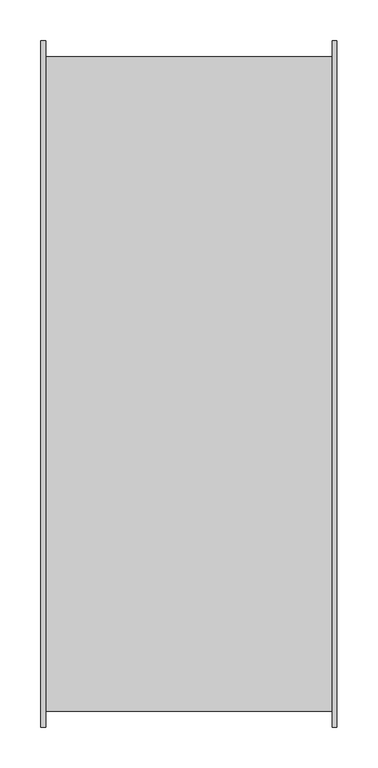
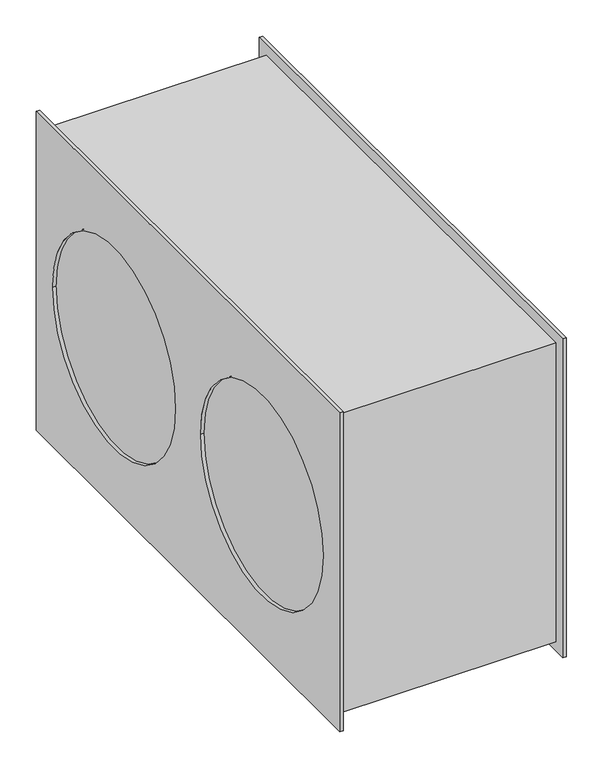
"""IFC4 building model written with IfcOpenShell, lengths in millimetres: unitary equipment geometry, VE-Wentylator-ParaForma-Harmann-JETTEC_REC_EC-Nawiewny : 080/50/6100EC."""

import ifcopenshell
import ifcopenshell.guid

model = None  # the IFC model being written
_history = None  # IfcOwnerHistory: only IFC2X3 demands one
_inside = {}  # id of a spatial element -> (the spatial element, [elements in it])
_under = {}  # id of a project, library or spatial element -> (it, [spatial elements below it])
_declared = {}  # id of a project -> (the project, [libraries it declares])
_typed = {}  # id of a type object -> (the type object, [elements of that type])
_made_of = {}  # id of a material, layer set ... -> (it, [elements and type objects made of it])


def new_model(schema):
    """Start an empty IFC model of exactly this schema.

    Asked for "IFC4X3", IfcOpenShell would pick the latest addendum, in which some entities
    have other attributes; the version numbers below select the first issue.
    IFC2X3 requires an IfcOwnerHistory on every rooted entity: one is made here for all.
    """
    global model, _history
    if schema == "IFC4X3":
        model = ifcopenshell.file(schema_version=(4, 3, 0, 0))
    else:
        model = ifcopenshell.file(schema=schema)
    _inside.clear()
    _under.clear()
    _declared.clear()
    _typed.clear()
    _made_of.clear()
    _history = None
    if model.schema == "IFC2X3":
        org = make("IfcOrganization", Name="unknown")
        user = make(
            "IfcPersonAndOrganization",
            ThePerson=make("IfcPerson", FamilyName="unknown"),
            TheOrganization=org,
        )
        app = make(
            "IfcApplication",
            ApplicationDeveloper=org,
            Version="unknown",
            ApplicationFullName="unknown",
            ApplicationIdentifier="unknown",
        )
        _history = make(
            "IfcOwnerHistory",
            OwningUser=user,
            OwningApplication=app,
            ChangeAction="ADDED",
            CreationDate=0,
        )
    return model


def make(cls, **values):
    """One entity of the class cls with the attributes given. An attribute that is None is left unset."""
    return model.create_entity(
        cls, **{name: value for name, value in values.items() if value is not None}
    )


def rooted(cls, **values):
    """An entity with a GlobalId (a new one), such as an element, a storey or a relation."""
    return make(cls, GlobalId=ifcopenshell.guid.new(), OwnerHistory=_history, **values)


def si_unit(unit_type, name, prefix=None):
    """IfcSIUnit, for example si_unit("LENGTHUNIT", "METRE", prefix="MILLI")."""
    return make("IfcSIUnit", UnitType=unit_type, Prefix=prefix, Name=name)


def assignment(units):
    """IfcUnitAssignment: the units of a project."""
    return None if units is None else make("IfcUnitAssignment", Units=units)


def point(xyz):
    """IfcCartesianPoint."""
    return None if xyz is None else make("IfcCartesianPoint", Coordinates=xyz)


def direction(xyz):
    """IfcDirection."""
    return None if xyz is None else make("IfcDirection", DirectionRatios=xyz)


def frame(location, z_axis=None, x_axis=None):
    """IfcAxis2Placement3D, a coordinate frame: its origin and axes. An axis left out is left unset."""
    return make(
        "IfcAxis2Placement3D",
        Location=point(location),
        Axis=direction(z_axis),
        RefDirection=direction(x_axis),
    )


def origin():
    """The frame at (0, 0, 0) with its axes left unset."""
    return frame((0.0, 0.0, 0.0))


def place(relative_to, where):
    """IfcLocalPlacement: puts the frame where relative to a parent placement (None: the world)."""
    return make(
        "IfcLocalPlacement", PlacementRelTo=relative_to, RelativePlacement=where
    )


def context(
    kind, dimensions, precision=None, world=None, true_north=None, identifier=None
):
    """IfcGeometricRepresentationContext, for example the 3D "Model" context."""
    return make(
        "IfcGeometricRepresentationContext",
        ContextIdentifier=identifier,
        ContextType=kind,
        CoordinateSpaceDimension=dimensions,
        Precision=precision,
        WorldCoordinateSystem=world,
        TrueNorth=true_north,
    )


def project(units=None, contexts=None):
    """IfcProject with its units and contexts."""
    return rooted(
        "IfcProject",
        Name="project",
        RepresentationContexts=contexts,
        UnitsInContext=assignment(units),
    )


def spatial(cls, under=None, at=None, **own):
    """A site, building, storey or space (cls), placed at a placement, below another one or the project."""
    s = rooted(cls, ObjectPlacement=at, **own)
    if under is not None:
        _under.setdefault(under.id(), (under, []))[1].append(s)
    return s


def polyline(points):
    """IfcPolyline through the points."""
    return make("IfcPolyline", Points=[point(p) for p in points])


def circle_curve(where, radius):
    """IfcCircle in the frame where."""
    return make("IfcCircle", Position=where, Radius=radius)


def shape(context_of_items, identifier, shape_type, items):
    """IfcShapeRepresentation: the items that make up one representation, for example the "Body"."""
    return make(
        "IfcShapeRepresentation",
        ContextOfItems=context_of_items,
        RepresentationIdentifier=identifier,
        RepresentationType=shape_type,
        Items=items,
    )


def source(mapping_origin, context_of_items, identifier, shape_type, items):
    """IfcRepresentationMap: a shape defined once, which mapped items show again and again."""
    return make(
        "IfcRepresentationMap",
        MappingOrigin=mapping_origin,
        MappedRepresentation=shape(context_of_items, identifier, shape_type, items),
    )


def transform(
    local_origin,
    x_axis=None,
    y_axis=None,
    z_axis=None,
    scale=None,
    scale2=None,
    scale3=None,
    uniform=True,
):
    """IfcCartesianTransformationOperator3D, or its non-uniform kind. x_axis, y_axis, z_axis: its Axis1, 2, 3."""
    if uniform:
        return make(
            "IfcCartesianTransformationOperator3D",
            Axis1=direction(x_axis),
            Axis2=direction(y_axis),
            LocalOrigin=point(local_origin),
            Scale=scale,
            Axis3=direction(z_axis),
        )
    return make(
        "IfcCartesianTransformationOperator3DnonUniform",
        Axis1=direction(x_axis),
        Axis2=direction(y_axis),
        LocalOrigin=point(local_origin),
        Scale=scale,
        Axis3=direction(z_axis),
        Scale2=scale2,
        Scale3=scale3,
    )


def mapped(mapping_source, mapping_target):
    """IfcMappedItem: shows the shape of a source again, moved by a transform."""
    return make(
        "IfcMappedItem", MappingSource=mapping_source, MappingTarget=mapping_target
    )


def made_of(thing, what):
    """Note that an element or type object is made of a material, layer set ...; save() writes the relation."""
    if what is not None:
        _made_of.setdefault(what.id(), (what, []))[1].append(thing)
    return thing


def element(
    cls,
    number,
    at=None,
    inside=None,
    cuts=None,
    type_object=None,
    material=None,
    context=None,
    identifier="Body",
    shape_type=None,
    held_by="IfcProductDefinitionShape",
    body=None,
    shapes=None,
    **own,
):
    """One element of the class cls, such as IfcWall. Its Tag is "e" and its number.

    at: its placement. inside: the storey or other place that contains it. cuts: it is an
    opening in that element (IfcRelVoidsElement). A single representation is given by context,
    identifier, shape_type and body (its items); several are given by shapes. held_by: the class
    of the entity that holds the representations. save() writes the other relations.
    """
    e = rooted(cls, Tag="e%d" % number, ObjectPlacement=at, **own)
    if body is not None:
        shapes = [shape(context, identifier, shape_type, body)]
    if shapes is not None:
        e.Representation = make(held_by, Representations=shapes)
    if inside is not None:
        _inside.setdefault(inside.id(), (inside, []))[1].append(e)
    if cuts is not None:
        rooted(
            "IfcRelVoidsElement", RelatingBuildingElement=cuts, RelatedOpeningElement=e
        )
    if type_object is not None:
        _typed.setdefault(type_object.id(), (type_object, []))[1].append(e)
    return made_of(e, material)


def aggregate(whole, parts):
    """IfcRelAggregates: a whole, such as a stair, and the parts it consists of."""
    return rooted("IfcRelAggregates", RelatingObject=whole, RelatedObjects=parts)


def save(model, path):
    """Write the relations noted so far, then the file.

    IfcRelAggregates (storeys below a building ...), IfcRelContainedInSpatialStructure (elements
    in a storey), IfcRelDefinesByType, IfcRelAssociatesMaterial and IfcRelDeclares: one each for
    every whole, place, type object, material and project.
    """
    for whole, parts in _under.values():
        aggregate(whole, parts)
    for where, things in _inside.values():
        rooted(
            "IfcRelContainedInSpatialStructure",
            RelatedElements=things,
            RelatingStructure=where,
        )
    for kind, things in _typed.values():
        rooted("IfcRelDefinesByType", RelatedObjects=things, RelatingType=kind)
    for what, things in _made_of.values():
        rooted("IfcRelAssociatesMaterial", RelatedObjects=things, RelatingMaterial=what)
    for by, libraries in _declared.values():
        rooted("IfcRelDeclares", RelatingContext=by, RelatedDefinitions=libraries)
    model.write(path)


def plane_surface(at):
    """IfcPlane: the flat surface through the origin of the frame at, square to its z axis."""
    return make("IfcPlane", Position=at)


def revolved_surface(curve, axis_point, axis_direction):
    """IfcSurfaceOfRevolution: the curve turned about the line through axis_point along axis_direction."""
    return make(
        "IfcSurfaceOfRevolution",
        SweptCurve=make("IfcArbitraryOpenProfileDef", ProfileType="CURVE", Curve=curve),
        AxisPosition=make("IfcAxis1Placement", Location=point(axis_point), Axis=direction(axis_direction)),
    )


def advanced_brep(points, edges, surfaces, faces):
    """IfcAdvancedBrep: a solid bounded by faces that lie on surfaces and meet in shared edges.

    An edge is (start, end): straight between two places in points (the first is 0);
    or (start, end, curve); or (start, end, curve, False) where it runs against its curve.
    A face is (place in surfaces, loops), or (place, loops, False) where it looks against
    its surface's normal. A loop lists edges by number (the first is 1), with a minus sign
    where the edge is run from its end to its start. The first loop is the outer one.
    """
    corners = [point(p) for p in points]
    vertices = [make("IfcVertexPoint", VertexGeometry=c) for c in corners]
    made = []
    for start, end, *more in edges:
        made.append(
            make(
                "IfcEdgeCurve",
                EdgeStart=vertices[start],
                EdgeEnd=vertices[end],
                EdgeGeometry=more[0] if more else make("IfcPolyline", Points=[corners[start], corners[end]]),
                SameSense=more[1] if len(more) > 1 else True,
            )
        )
    hull = []
    for where, loops, *sense in faces:
        bounds = []
        for j, loop in enumerate(loops):
            ring = [make("IfcOrientedEdge", EdgeElement=made[abs(k) - 1], Orientation=k > 0) for k in loop]
            bounds.append(
                make(
                    "IfcFaceOuterBound" if j == 0 else "IfcFaceBound",
                    Bound=make("IfcEdgeLoop", EdgeList=ring),
                    Orientation=True,
                )
            )
        hull.append(make("IfcAdvancedFace", Bounds=bounds, FaceSurface=surfaces[where], SameSense=sense[0] if sense else True))
    return make("IfcAdvancedBrep", Outer=make("IfcClosedShell", CfsFaces=hull))


def unitary_equipment_636d3d62(model_context):
    return source(origin(), model_context, "Body", "AdvancedBrep", [
        advanced_brep(
        [(175.0, -419.3, -269.0), (175.0, -419.3, 269.0), (175.0, 419.3, 269.0), (175.0, 419.3, -269.0), (175.0, -399.8, 251.0), (175.0, -399.8, -253.4), (175.0, 399.8, -253.4), (175.0, 399.8, 251.0), (180.8, -419.3, -269.0), (180.8, 419.3, -269.0), (180.8, 419.3, 269.0), (180.8, -419.3, 269.0), (180.8, -373.8, 0.0), (180.8, -34.8, 0.0), (180.8, 34.8, 0.0), (180.8, 373.8, 0.0), (175.0, -34.8, 0.0), (175.0, -373.8, 0.0), (175.0, 373.8, 0.0), (175.0, 34.8, 0.0), (-175.0, -373.8, 0.0), (-175.0, -34.8, 0.0), (-175.0, 34.8, 0.0), (-175.0, 373.8, 0.0), (-175.0, -399.8, -253.4), (-175.0, -399.8, 251.0), (-175.0, 399.8, 251.0), (-175.0, 399.8, -253.4), (-180.8, -419.3, -269.0), (-180.8, -419.3, 269.0), (-180.8, 419.3, 269.0), (-180.8, 419.3, -269.0), (-180.8, -34.8, 0.0), (-180.8, -373.8, 0.0), (-180.8, 373.8, 0.0), (-180.8, 34.8, 0.0), (-175.0, -419.3, -269.0), (-175.0, 419.3, -269.0), (-175.0, 419.3, 269.0), (-175.0, -419.3, 269.0)],
        [
            (0, 1),
            (1, 2),
            (2, 3),
            (3, 0),
            (4, 5),
            (5, 6),
            (6, 7),
            (7, 4),
            (8, 9),
            (9, 10),
            (10, 11),
            (11, 8),
            (12, 13, circle_curve(frame((180.8, -204.3, 0.0), z_axis=(-1.0, 0.0, 0.0), x_axis=(0.0, 1.0, 0.0)), 169.5)),
            (13, 12, circle_curve(frame((180.8, -204.3, 0.0), z_axis=(-1.0, 0.0, 0.0), x_axis=(0.0, 1.0, 0.0)), 169.5)),
            (14, 15, circle_curve(frame((180.8, 204.3, 0.0), z_axis=(-1.0, 0.0, 0.0), x_axis=(0.0, 1.0, 0.0)), 169.5)),
            (15, 14, circle_curve(frame((180.8, 204.3, 0.0), z_axis=(-1.0, 0.0, 0.0), x_axis=(0.0, 1.0, 0.0)), 169.5)),
            (0, 8),
            (11, 1),
            (10, 2),
            (9, 3),
            (16, 13),
            (12, 17),
            (17, 16, circle_curve(frame((175.0, -204.3, 0.0), z_axis=(-1.0, 0.0, 0.0), x_axis=(0.0, 1.0, 0.0)), 169.5)),
            (16, 17, circle_curve(frame((175.0, -204.3, 0.0), z_axis=(-1.0, 0.0, 0.0), x_axis=(0.0, 1.0, 0.0)), 169.5)),
            (18, 15),
            (14, 19),
            (19, 18, circle_curve(frame((175.0, 204.3, 0.0), z_axis=(-1.0, 0.0, 0.0), x_axis=(0.0, 1.0, 0.0)), 169.5)),
            (18, 19, circle_curve(frame((175.0, 204.3, 0.0), z_axis=(-1.0, 0.0, 0.0), x_axis=(0.0, 1.0, 0.0)), 169.5)),
            (20, 21, circle_curve(frame((-175.0, -204.3, 0.0), z_axis=(-1.0, 0.0, 0.0), x_axis=(0.0, 1.0, 0.0)), 169.5)),
            (21, 20, circle_curve(frame((-175.0, -204.3, 0.0), z_axis=(-1.0, 0.0, 0.0), x_axis=(0.0, 1.0, 0.0)), 169.5)),
            (22, 23, circle_curve(frame((-175.0, 204.3, 0.0), z_axis=(-1.0, 0.0, 0.0), x_axis=(0.0, 1.0, 0.0)), 169.5)),
            (23, 22, circle_curve(frame((-175.0, 204.3, 0.0), z_axis=(-1.0, 0.0, 0.0), x_axis=(0.0, 1.0, 0.0)), 169.5)),
            (24, 5),
            (4, 25),
            (25, 24),
            (7, 26),
            (26, 25),
            (6, 27),
            (27, 26),
            (24, 27),
            (28, 29),
            (29, 30),
            (30, 31),
            (31, 28),
            (32, 33, circle_curve(frame((-180.8, -204.3, 0.0), z_axis=(1.0, 0.0, 0.0), x_axis=(0.0, 1.0, 0.0)), 169.5)),
            (33, 32, circle_curve(frame((-180.8, -204.3, 0.0), z_axis=(1.0, 0.0, 0.0), x_axis=(0.0, 1.0, 0.0)), 169.5)),
            (34, 35, circle_curve(frame((-180.8, 204.3, 0.0), z_axis=(1.0, 0.0, 0.0), x_axis=(0.0, 1.0, 0.0)), 169.5)),
            (35, 34, circle_curve(frame((-180.8, 204.3, 0.0), z_axis=(1.0, 0.0, 0.0), x_axis=(0.0, 1.0, 0.0)), 169.5)),
            (36, 37),
            (37, 38),
            (38, 39),
            (39, 36),
            (28, 36),
            (39, 29),
            (38, 30),
            (37, 31),
            (32, 21),
            (20, 33),
            (34, 23),
            (22, 35),
        ],
        [
            plane_surface(frame((175.0, 0.0, 0.0), z_axis=(-1.0, 0.0, 0.0), x_axis=(0.0, 0.0, 1.0))),
            plane_surface(frame((180.8, 0.0, 0.0), z_axis=(1.0, 0.0, 0.0), x_axis=(0.0, 0.0, 1.0))),
            plane_surface(frame((175.0, -419.3, -269.0), z_axis=(0.0, -1.0, 0.0), x_axis=(1.0, 0.0, 0.0))),
            plane_surface(frame((175.0, -419.3, 269.0), z_axis=(0.0, 0.0, 1.0), x_axis=(1.0, 0.0, 0.0))),
            plane_surface(frame((175.0, 419.3, 269.0), z_axis=(0.0, 1.0, 0.0), x_axis=(1.0, 0.0, 0.0))),
            plane_surface(frame((175.0, 419.3, -269.0), z_axis=(0.0, 0.0, -1.0), x_axis=(1.0, 0.0, 0.0))),
            revolved_surface(polyline([(175.0, -34.80000000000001, 0.0), (180.8, -34.80000000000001, 0.0)]), (175.0, -204.3, 0.0), (-1.0, 0.0, 0.0)),
            revolved_surface(polyline([(175.0, 373.8, 0.0), (180.8, 373.8, 0.0)]), (175.0, 204.3, 0.0), (-1.0, 0.0, 0.0)),
            plane_surface(frame((-175.0, 0.0, 0.0), z_axis=(-1.0, 0.0, 0.0), x_axis=(0.0, 0.0, 1.0))),
            plane_surface(frame((175.0, 0.0, 0.0), z_axis=(1.0, 0.0, 0.0), x_axis=(0.0, 0.0, 1.0))),
            plane_surface(frame((-175.0, -399.8, -253.4), z_axis=(0.0, -1.0, 0.0), x_axis=(1.0, 0.0, 0.0))),
            plane_surface(frame((-175.0, -399.8, 251.0), z_axis=(0.0, 0.0, 1.0), x_axis=(1.0, 0.0, 0.0))),
            plane_surface(frame((-175.0, 399.8, 251.0), z_axis=(0.0, 1.0, 0.0), x_axis=(1.0, 0.0, 0.0))),
            plane_surface(frame((-175.0, 399.8, -253.4), z_axis=(0.0, 0.0, -1.0), x_axis=(1.0, 0.0, 0.0))),
            plane_surface(frame((-180.8, 0.0, 0.0), z_axis=(-1.0, 0.0, 0.0), x_axis=(0.0, 0.0, 1.0))),
            plane_surface(frame((-175.0, 0.0, 0.0), z_axis=(1.0, 0.0, 0.0), x_axis=(0.0, 0.0, 1.0))),
            plane_surface(frame((-180.8, -419.3, -269.0), z_axis=(0.0, -1.0, 0.0), x_axis=(1.0, 0.0, 0.0))),
            plane_surface(frame((-180.8, -419.3, 269.0), z_axis=(0.0, 0.0, 1.0), x_axis=(1.0, 0.0, 0.0))),
            plane_surface(frame((-180.8, 419.3, 269.0), z_axis=(0.0, 1.0, 0.0), x_axis=(1.0, 0.0, 0.0))),
            plane_surface(frame((-180.8, 419.3, -269.0), z_axis=(0.0, 0.0, -1.0), x_axis=(1.0, 0.0, 0.0))),
            revolved_surface(polyline([(-180.8, -34.80000000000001, 0.0), (-175.0, -34.80000000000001, 0.0)]), (-180.8, -204.3, 0.0), (-1.0, 0.0, 0.0)),
            revolved_surface(polyline([(-180.8, 373.8, 0.0), (-175.0, 373.8, 0.0)]), (-180.8, 204.3, 0.0), (-1.0, 0.0, 0.0)),
        ],
        [
            (0, [[1, 2, 3, 4], [5, 6, 7, 8]]),
            (1, [[9, 10, 11, 12], [13, 14], [15, 16]]),
            (2, [[-1, 17, -12, 18]]),
            (3, [[-2, -18, -11, 19]]),
            (4, [[-3, -19, -10, 20]]),
            (5, [[-4, -20, -9, -17]]),
            (6, [[21, -13, 22, 23]]),
            (6, [[-21, 24, -22, -14]]),
            (7, [[25, -15, 26, 27]]),
            (7, [[-25, 28, -26, -16]]),
            (8, [[29, 30]]),
            (8, [[31, 32]]),
            (9, [[-23, -24]]),
            (9, [[-27, -28]]),
            (10, [[33, -5, 34, 35]]),
            (11, [[-34, -8, 36, 37]]),
            (12, [[-36, -7, 38, 39]]),
            (13, [[-33, 40, -38, -6]]),
            (14, [[41, 42, 43, 44], [45, 46], [47, 48]]),
            (15, [[49, 50, 51, 52], [-35, -37, -39, -40]]),
            (16, [[-41, 53, -52, 54]]),
            (17, [[-42, -54, -51, 55]]),
            (18, [[-43, -55, -50, 56]]),
            (19, [[-44, -56, -49, -53]]),
            (20, [[57, -29, 58, -45]]),
            (20, [[-57, -46, -58, -30]]),
            (21, [[59, -31, 60, -47]]),
            (21, [[-59, -48, -60, -32]]),
        ],
    ),
    ])


if __name__ == "__main__":
    model = new_model("IFC4")
    model_context = context("Model", 3, world=origin())
    ifc_project = project(units=[si_unit("LENGTHUNIT", "METRE", prefix="MILLI")], contexts=[model_context])
    site = spatial("IfcSite", under=ifc_project)
    building = spatial("IfcBuilding", under=site)
    placement = place(None, origin())
    unitary_equipment_shape = unitary_equipment_636d3d62(model_context)
    element("IfcUnitaryEquipment", 1, ObjectType="VE-Wentylator-ParaForma-Harmann-JETTEC_REC_EC-Nawiewny : 080/50/6100EC", at=placement, inside=building, context=model_context, shape_type="MappedRepresentation", body=[
        mapped(unitary_equipment_shape, transform((0.0, 0.0, 0.0), x_axis=(1.0, 0.0, 0.0), y_axis=(0.0, 1.0, 0.0), z_axis=(0.0, 0.0, 1.0))),
    ])
    save(model, "model.ifc")
